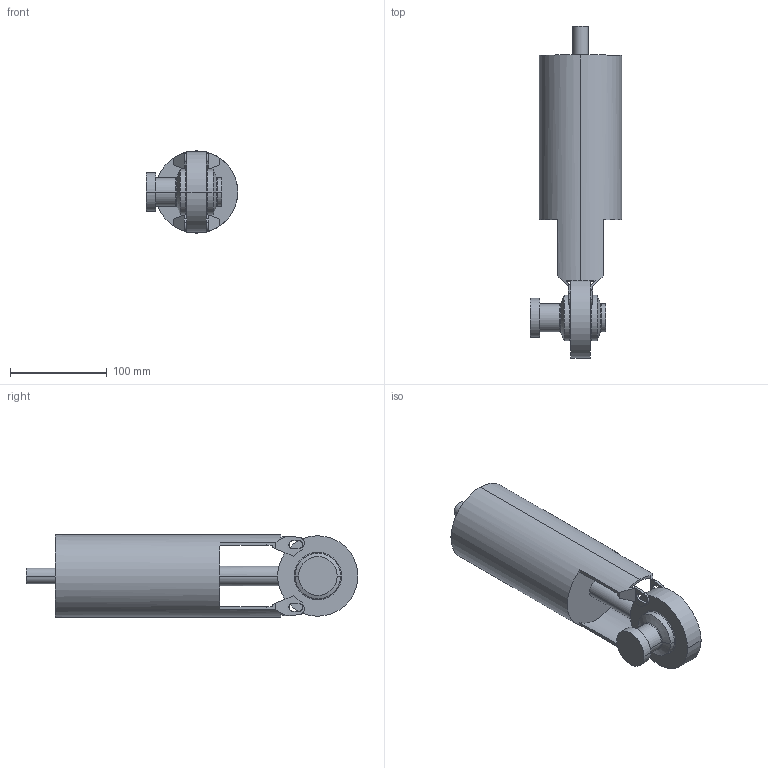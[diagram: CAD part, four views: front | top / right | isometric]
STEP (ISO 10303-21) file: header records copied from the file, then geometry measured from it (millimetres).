
FILE_DESCRIPTION(('Creo Elements/Direct Modeling STEP Export'),'2;1');
FILE_NAME('SV1-25-FZ-1S-2K.stp','2012-11-06T14:40:00',(''),(''),'Creo Elements/Direct Modeling STEP processor for AP214 (Solid Model)','Creo Elements/Direct Modeling 17.0D 15-Jul-2011 (C) Parametric Technology GmbH','');
FILE_SCHEMA(('AUTOMOTIVE_DESIGN { 1 0 10303 214 1 1 1 1 }'));
Length unit declared in the file: millimetre
Products named in the file (2): SV1-25-FZ-1S2K
Assembly tree (1 placements, depth 2):
  SV1-25-FZ-1S2K
    SV1-25-FZ-1S2K
Bounding box: 94.5 x 342.93 x 85 mm (x, y, z)
Volume: 1178053.3 mm3; surface area: 101683.6 mm2
Topology: 1 solids, 1 shells, 119 faces, 331 edges, 208 vertices
Faces by surface type: plane 73, cylinder 34, torus 8, cone 4
Entity records: 4168 total; most frequent: CARTESIAN_POINT 1156, ORIENTED_EDGE 662, DIRECTION 605, EDGE_CURVE 331, AXIS2_PLACEMENT_3D 214, VERTEX_POINT 208, VECTOR 177, LINE 177
